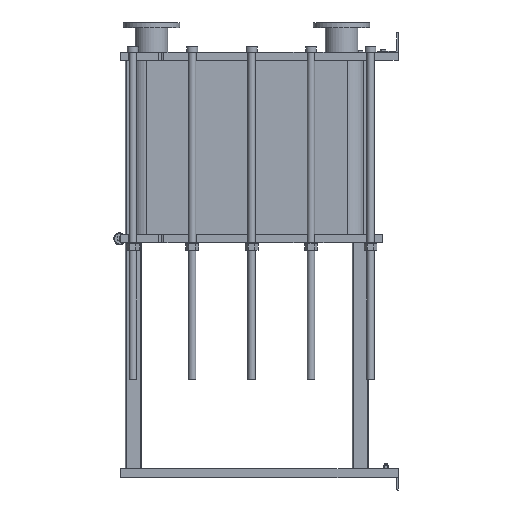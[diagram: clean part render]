
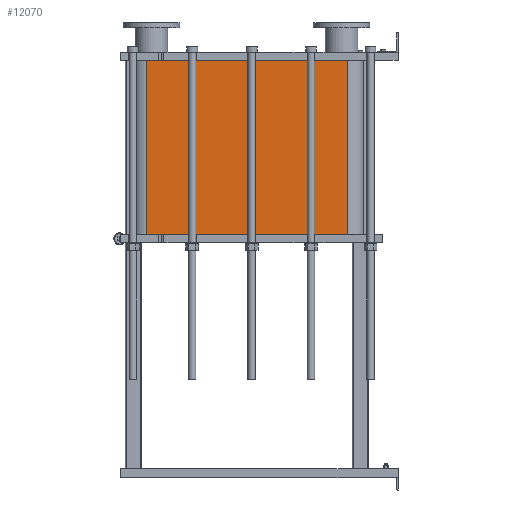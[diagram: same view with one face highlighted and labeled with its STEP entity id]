
A CAD part, left-side view. The second image highlights one B-rep face of the part: STEP entity #12070.
In plain terms, the highlighted planar face has unit normal (-1, 0, 0).
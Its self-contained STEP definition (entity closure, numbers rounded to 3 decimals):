
#1064=LINE('',#21140,#2164);
#1065=LINE('',#21144,#2165);
#1066=LINE('',#21146,#2166);
#1067=LINE('',#21147,#2167);
#2164=VECTOR('',#15790,10.);
#2165=VECTOR('',#15795,10.);
#2166=VECTOR('',#15796,10.);
#2167=VECTOR('',#15797,10.);
#3304=FACE_OUTER_BOUND('',#4091,.T.);
#4091=EDGE_LOOP('',(#9793,#9794,#9795,#9796));
#5677=VERTEX_POINT('',#21137);
#5678=VERTEX_POINT('',#21139);
#5679=VERTEX_POINT('',#21143);
#5680=VERTEX_POINT('',#21145);
#7118=EDGE_CURVE('',#5678,#5677,#1064,.T.);
#7120=EDGE_CURVE('',#5677,#5679,#1065,.T.);
#7121=EDGE_CURVE('',#5680,#5679,#1066,.T.);
#7122=EDGE_CURVE('',#5680,#5678,#1067,.T.);
#9793=ORIENTED_EDGE('',*,*,#7120,.T.);
#9794=ORIENTED_EDGE('',*,*,#7121,.F.);
#9795=ORIENTED_EDGE('',*,*,#7122,.T.);
#9796=ORIENTED_EDGE('',*,*,#7118,.T.);
#11441=PLANE('',#13191);
#12070=ADVANCED_FACE('',(#3304),#11441,.T.);
#13191=AXIS2_PLACEMENT_3D('',#21142,#15793,#15794);
#15790=DIRECTION('',(0.,0.,-1.));
#15793=DIRECTION('center_axis',(-1.,0.,0.));
#15794=DIRECTION('ref_axis',(0.,1.,0.));
#15795=DIRECTION('',(0.,-1.,0.));
#15796=DIRECTION('',(0.,0.,-1.));
#15797=DIRECTION('',(0.,1.,0.));
#21137=CARTESIAN_POINT('',(-248.152,1243.818,-862.5));
#21139=CARTESIAN_POINT('',(-248.152,1243.818,0.));
#21140=CARTESIAN_POINT('',(-248.152,1243.818,0.));
#21142=CARTESIAN_POINT('Origin',(-248.152,251.818,0.));
#21143=CARTESIAN_POINT('',(-248.152,251.818,-862.5));
#21144=CARTESIAN_POINT('',(-248.152,499.818,-862.5));
#21145=CARTESIAN_POINT('',(-248.152,251.818,0.));
#21146=CARTESIAN_POINT('',(-248.152,251.818,0.));
#21147=CARTESIAN_POINT('',(-248.152,251.818,0.));
